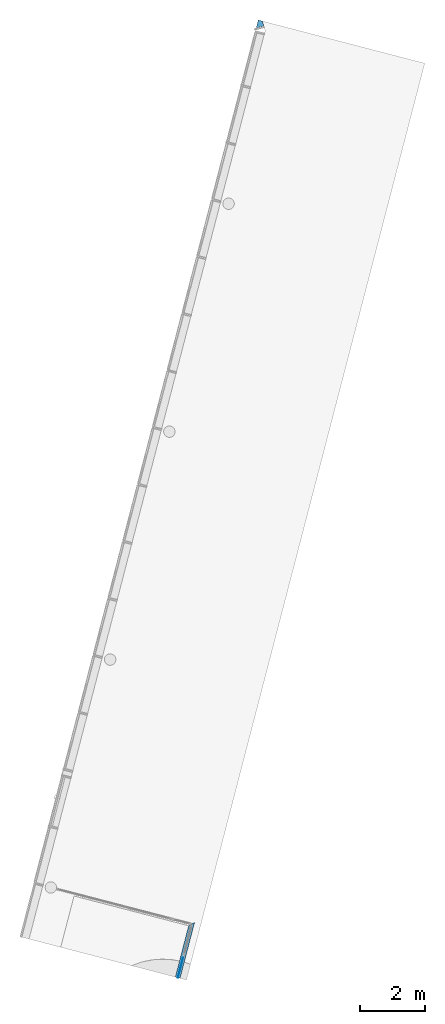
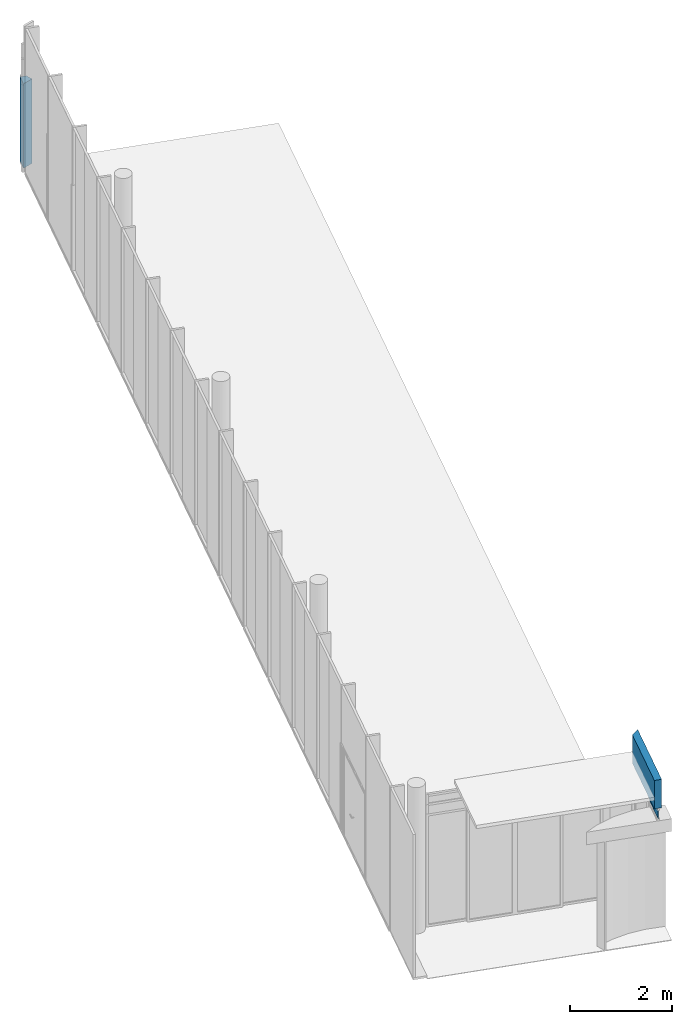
# One storey, part 7 of 9: 2 plates, 1 wall, 2 elements without a shape of their own.
"""IFC2X3 building model written with IfcOpenShell, lengths in millimetres."""

import ifcopenshell
import ifcopenshell.guid

model = None  # the IFC model being written
_history = None  # IfcOwnerHistory: only IFC2X3 demands one
_inside = {}  # id of a spatial element -> (the spatial element, [elements in it])
_under = {}  # id of a project, library or spatial element -> (it, [spatial elements below it])
_declared = {}  # id of a project -> (the project, [libraries it declares])
_typed = {}  # id of a type object -> (the type object, [elements of that type])
_made_of = {}  # id of a material, layer set ... -> (it, [elements and type objects made of it])


def new_model(schema):
    """Start an empty IFC model of exactly this schema.

    Asked for "IFC4X3", IfcOpenShell would pick the latest addendum, in which some entities
    have other attributes; the version numbers below select the first issue.
    IFC2X3 requires an IfcOwnerHistory on every rooted entity: one is made here for all.
    """
    global model, _history
    if schema == "IFC4X3":
        model = ifcopenshell.file(schema_version=(4, 3, 0, 0))
    else:
        model = ifcopenshell.file(schema=schema)
    _inside.clear()
    _under.clear()
    _declared.clear()
    _typed.clear()
    _made_of.clear()
    _history = None
    if model.schema == "IFC2X3":
        org = make("IfcOrganization", Name="unknown")
        user = make(
            "IfcPersonAndOrganization",
            ThePerson=make("IfcPerson", FamilyName="unknown"),
            TheOrganization=org,
        )
        app = make(
            "IfcApplication",
            ApplicationDeveloper=org,
            Version="unknown",
            ApplicationFullName="unknown",
            ApplicationIdentifier="unknown",
        )
        _history = make(
            "IfcOwnerHistory",
            OwningUser=user,
            OwningApplication=app,
            ChangeAction="ADDED",
            CreationDate=0,
        )
    return model


def make(cls, **values):
    """One entity of the class cls with the attributes given. An attribute that is None is left unset."""
    return model.create_entity(
        cls, **{name: value for name, value in values.items() if value is not None}
    )


def entity(cls, *values):
    """Any entity or typed value of the class cls, its attributes in the order of the schema. None: left unset."""
    e = model.create_entity(cls)
    for i, value in enumerate(values):
        if value is not None:
            e[i] = value
    return e


def rooted(cls, **values):
    """An entity with a GlobalId (a new one), such as an element, a storey or a relation."""
    return make(cls, GlobalId=ifcopenshell.guid.new(), OwnerHistory=_history, **values)


def si_unit(unit_type, name, prefix=None):
    """IfcSIUnit, for example si_unit("LENGTHUNIT", "METRE", prefix="MILLI")."""
    return make("IfcSIUnit", UnitType=unit_type, Prefix=prefix, Name=name)


def converted_unit(unit_type, name, factor, base, dimensions=None, offset=None):
    """IfcConversionBasedUnit, such as the inch: factor (a typed value) times the base unit."""
    return make(
        "IfcConversionBasedUnit"
        if offset is None
        else "IfcConversionBasedUnitWithOffset",
        ConversionOffset=offset,
        Dimensions=None
        if dimensions is None
        else entity("IfcDimensionalExponents", *dimensions),
        UnitType=unit_type,
        Name=name,
        ConversionFactor=make(
            "IfcMeasureWithUnit", ValueComponent=factor, UnitComponent=base
        ),
    )


def derived_unit(unit_type, elements):
    """IfcDerivedUnit: a product of units, each with its exponent."""
    return make(
        "IfcDerivedUnit",
        Elements=[
            make("IfcDerivedUnitElement", Unit=unit, Exponent=power)
            for unit, power in elements
        ],
        UnitType=unit_type,
    )


def assignment(units):
    """IfcUnitAssignment: the units of a project."""
    return None if units is None else make("IfcUnitAssignment", Units=units)


def point(xyz):
    """IfcCartesianPoint."""
    return None if xyz is None else make("IfcCartesianPoint", Coordinates=xyz)


def direction(xyz):
    """IfcDirection."""
    return None if xyz is None else make("IfcDirection", DirectionRatios=xyz)


def frame(location, z_axis=None, x_axis=None):
    """IfcAxis2Placement3D, a coordinate frame: its origin and axes. An axis left out is left unset."""
    return make(
        "IfcAxis2Placement3D",
        Location=point(location),
        Axis=direction(z_axis),
        RefDirection=direction(x_axis),
    )


def origin():
    """The frame at (0, 0, 0) with its axes left unset."""
    return frame((0.0, 0.0, 0.0))


def origin_with_axes():
    """The frame at (0, 0, 0) with the z axis (0, 0, 1) and the x axis (1, 0, 0) written out."""
    return frame((0.0, 0.0, 0.0), z_axis=(0.0, 0.0, 1.0), x_axis=(1.0, 0.0, 0.0))


def place(relative_to, where):
    """IfcLocalPlacement: puts the frame where relative to a parent placement (None: the world)."""
    return make(
        "IfcLocalPlacement", PlacementRelTo=relative_to, RelativePlacement=where
    )


def context(
    kind, dimensions, precision=None, world=None, true_north=None, identifier=None
):
    """IfcGeometricRepresentationContext, for example the 3D "Model" context."""
    return make(
        "IfcGeometricRepresentationContext",
        ContextIdentifier=identifier,
        ContextType=kind,
        CoordinateSpaceDimension=dimensions,
        Precision=precision,
        WorldCoordinateSystem=world,
        TrueNorth=true_north,
    )


def subcontext(parent, identifier, kind, view, scale=None):
    """IfcGeometricRepresentationSubContext, for example "Body" below "Model"."""
    return make(
        "IfcGeometricRepresentationSubContext",
        ContextIdentifier=identifier,
        ContextType=kind,
        ParentContext=parent,
        TargetScale=scale,
        TargetView=view,
    )


def project(units=None, contexts=None):
    """IfcProject with its units and contexts."""
    return rooted(
        "IfcProject",
        Name="project",
        RepresentationContexts=contexts,
        UnitsInContext=assignment(units),
    )


def spatial(cls, under=None, at=None, **own):
    """A site, building, storey or space (cls), placed at a placement, below another one or the project."""
    s = rooted(cls, ObjectPlacement=at, **own)
    if under is not None:
        _under.setdefault(under.id(), (under, []))[1].append(s)
    return s


def faces_of(points, faces, orient=None, outer=None):
    """IfcFace entities. A face is a list of loops; a loop is a list of indices into points, from 0.

    orient and outer hold one flag for each loop. By default every Orientation is true, the
    first loop of a face is its IfcFaceOuterBound and the others are IfcFaceBound.
    """
    made = []
    for i, loops in enumerate(faces):
        bounds = []
        for j, loop in enumerate(loops):
            is_outer = j == 0 if outer is None else outer[i][j]
            bounds.append(
                make(
                    "IfcFaceOuterBound" if is_outer else "IfcFaceBound",
                    Bound=make("IfcPolyLoop", Polygon=[points[k] for k in loop]),
                    Orientation=True if orient is None else orient[i][j],
                )
            )
        made.append(make("IfcFace", Bounds=bounds))
    return made


def faceted_brep(points, faces, orient=None, outer=None, voids=None):
    """IfcFacetedBrep: a solid bounded by flat faces; with voids (closed shells), ...WithVoids."""
    shared = [point(p) for p in points]
    hull = make("IfcClosedShell", CfsFaces=faces_of(shared, faces, orient, outer))
    if voids is None:
        return make("IfcFacetedBrep", Outer=hull)
    return make(
        "IfcFacetedBrepWithVoids",
        Outer=hull,
        Voids=[
            make(cls, CfsFaces=faces_of(shared, fs, o, b)) for cls, fs, o, b in voids
        ],
    )


def shape(context_of_items, identifier, shape_type, items):
    """IfcShapeRepresentation: the items that make up one representation, for example the "Body"."""
    return make(
        "IfcShapeRepresentation",
        ContextOfItems=context_of_items,
        RepresentationIdentifier=identifier,
        RepresentationType=shape_type,
        Items=items,
    )


def material(Name=None, Category=None):
    """IfcMaterial."""
    return make("IfcMaterial", Name=Name, Category=Category)


def layer(
    of_material, thickness, ventilated=None, Name=None, Category=None, Priority=None
):
    """IfcMaterialLayer: one layer of a wall or slab, of a material (None: an air gap)."""
    return make(
        "IfcMaterialLayer",
        Material=of_material,
        LayerThickness=thickness,
        IsVentilated=ventilated,
        Name=Name,
        Category=Category,
        Priority=Priority,
    )


def layer_set(layers, Name=None):
    """IfcMaterialLayerSet."""
    return make("IfcMaterialLayerSet", MaterialLayers=layers, LayerSetName=Name)


def made_of(thing, what):
    """Note that an element or type object is made of a material, layer set ...; save() writes the relation."""
    if what is not None:
        _made_of.setdefault(what.id(), (what, []))[1].append(thing)
    return thing


def type_object(cls, material=None, **own):
    """A type object (cls), such as IfcWallType, which elements share."""
    return made_of(rooted(cls, **own), material)


def element(
    cls,
    number,
    at=None,
    inside=None,
    cuts=None,
    type_object=None,
    material=None,
    context=None,
    identifier="Body",
    shape_type=None,
    held_by="IfcProductDefinitionShape",
    body=None,
    shapes=None,
    **own,
):
    """One element of the class cls, such as IfcWall. Its Tag is "e" and its number.

    at: its placement. inside: the storey or other place that contains it. cuts: it is an
    opening in that element (IfcRelVoidsElement). A single representation is given by context,
    identifier, shape_type and body (its items); several are given by shapes. held_by: the class
    of the entity that holds the representations. save() writes the other relations.
    """
    e = rooted(cls, Tag="e%d" % number, ObjectPlacement=at, **own)
    if body is not None:
        shapes = [shape(context, identifier, shape_type, body)]
    if shapes is not None:
        e.Representation = make(held_by, Representations=shapes)
    if inside is not None:
        _inside.setdefault(inside.id(), (inside, []))[1].append(e)
    if cuts is not None:
        rooted(
            "IfcRelVoidsElement", RelatingBuildingElement=cuts, RelatedOpeningElement=e
        )
    if type_object is not None:
        _typed.setdefault(type_object.id(), (type_object, []))[1].append(e)
    return made_of(e, material)


def aggregate(whole, parts):
    """IfcRelAggregates: a whole, such as a stair, and the parts it consists of."""
    return rooted("IfcRelAggregates", RelatingObject=whole, RelatedObjects=parts)


def save(model, path):
    """Write the relations noted so far, then the file.

    IfcRelAggregates (storeys below a building ...), IfcRelContainedInSpatialStructure (elements
    in a storey), IfcRelDefinesByType, IfcRelAssociatesMaterial and IfcRelDeclares: one each for
    every whole, place, type object, material and project.
    """
    for whole, parts in _under.values():
        aggregate(whole, parts)
    for where, things in _inside.values():
        rooted(
            "IfcRelContainedInSpatialStructure",
            RelatedElements=things,
            RelatingStructure=where,
        )
    for kind, things in _typed.values():
        rooted("IfcRelDefinesByType", RelatedObjects=things, RelatingType=kind)
    for what, things in _made_of.values():
        rooted("IfcRelAssociatesMaterial", RelatedObjects=things, RelatingMaterial=what)
    for by, libraries in _declared.values():
        rooted("IfcRelDeclares", RelatingContext=by, RelatedDefinitions=libraries)
    model.write(path)


model = new_model("IFC2X3")

# Units and contexts
model_context = context("Model", 3, precision=0.01, world=origin(), true_north=direction((6.12323399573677e-17, 1.0)))
plan_context = context("Plan", 3, precision=1e-05, world=origin_with_axes())
body_context = subcontext(model_context, "Body", "Model", "MODEL_VIEW")
ifc_project = project(units=[converted_unit("PLANEANGLEUNIT", "DEGREE", entity("IfcPositiveLengthMeasure", 0.0174532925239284), si_unit("PLANEANGLEUNIT", "RADIAN"), dimensions=[0, 0, 0, 0, 0, 0, 0]), si_unit("AREAUNIT", "SQUARE_METRE"), si_unit("LENGTHUNIT", "METRE", prefix="MILLI"), si_unit("MASSUNIT", "GRAM", prefix="KILO"), si_unit("POWERUNIT", "WATT"), si_unit("PRESSUREUNIT", "PASCAL", prefix="KILO"), si_unit("FORCEUNIT", "NEWTON", prefix="KILO"), si_unit("ELECTRICVOLTAGEUNIT", "VOLT"), si_unit("ELECTRICCURRENTUNIT", "AMPERE"), si_unit("THERMODYNAMICTEMPERATUREUNIT", "DEGREE_CELSIUS"), si_unit("TIMEUNIT", "SECOND"), si_unit("VOLUMEUNIT", "CUBIC_METRE"), derived_unit("LINEARVELOCITYUNIT", [(si_unit("LENGTHUNIT", "METRE"), 1), (si_unit("TIMEUNIT", "SECOND"), -1)]), derived_unit("VOLUMETRICFLOWRATEUNIT", [(si_unit("VOLUMEUNIT", "CUBIC_METRE"), 1), (si_unit("TIMEUNIT", "SECOND"), -1)]), derived_unit("THERMALTRANSMITTANCEUNIT", [(si_unit("POWERUNIT", "WATT"), 1), (si_unit("THERMODYNAMICTEMPERATUREUNIT", "KELVIN"), -1), (si_unit("AREAUNIT", "SQUARE_METRE"), -1)]), derived_unit("SOUNDPRESSUREUNIT", [(si_unit("PRESSUREUNIT", "PASCAL"), 1)])], contexts=[model_context, plan_context])

# Site, building, storey
site_placement = place(None, frame((0.0, -2.21771188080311e-09, 0.0), z_axis=(0.0, 0.0, 1.0), x_axis=(0.266093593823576, -0.963947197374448, 0.0)))
site = spatial("IfcSite", under=ifc_project, at=site_placement, Name="ENZV", CompositionType="ELEMENT")
building_placement = place(site_placement, origin_with_axes())
building = spatial("IfcBuilding", under=site, at=building_placement, Name="ZV001", CompositionType="ELEMENT")
storey_placement = place(building_placement, frame((0.0, 0.0, 5100.0), z_axis=(0.0, 0.0, 1.0), x_axis=(1.0, 0.0, 0.0)))
storey = spatial("IfcBuildingStorey", under=building, at=storey_placement, Name="H01", CompositionType="ELEMENT", Elevation=5100.0)

# Curtain wall, plate
curtain_wall_type_1 = type_object("IfcCurtainWallType", Name="Curtain Wall:Glassvegg 24 dB", PredefinedType="NOTDEFINED")
curtain_wall_1_placement = place(storey_placement, frame((0.0, 0.0, -5100.0), z_axis=(0.0, 0.0, 1.0), x_axis=(1.0, 0.0, 0.0)))
curtain_wall_1 = element("IfcCurtainWall", 1, at=curtain_wall_1_placement, inside=storey, type_object=curtain_wall_type_1, Name="Curtain Wall:Glassvegg 24 dB", ObjectType="Curtain Wall:Glassvegg 24 dB")
ifc_material_1 = material(Name="Glass")
plate_type_1 = type_object("IfcPlateType", Name="System Panel:Glassfelt 10mm", PredefinedType="CURTAIN_PANEL", material=ifc_material_1)
plate_1_placement = place(curtain_wall_1_placement, frame((-153830.698084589, 369289.979196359, 8048.0), z_axis=(0.0, 0.0, 1.0), x_axis=(0.866025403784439, -0.5, 0.0)))
plate_1 = element("IfcPlate", 2, at=plate_1_placement, type_object=plate_type_1, Name="System Panel:Glassfelt 10mm", ObjectType="System Panel:Glassfelt 10mm", context=body_context, shape_type="Brep", body=[
    faceted_brep([(-1904.7362617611, -5.0, 192.0), (-1904.7362617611, -5.0, 0.0), (-2534.90683031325, -5.0, 0.0), (-2534.90683031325, -5.0, 192.0), (-1904.73579595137, 5.0, 0.0), (-1904.73579595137, 5.0, 192.0), (-2534.90683031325, 5.0, 192.0), (-2534.90683031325, 5.0, 0.0)], [[[0, 1, 2, 3]], [[4, 5, 6, 7]], [[7, 6, 3, 2]], [[1, 4, 7, 2]], [[5, 0, 3, 6]], [[5, 4, 1, 0]]], orient=[[False], [False], [False], [False], [False], [False]]),
])
aggregate(curtain_wall_1, [plate_1])

curtain_wall_type_2 = type_object("IfcCurtainWallType", Name="Curtain Wall:Curtain Wall glass 125mm ut", PredefinedType="NOTDEFINED")
curtain_wall_2_placement = place(storey_placement, frame((0.0, 0.0, -5100.0), z_axis=(0.0, 0.0, 1.0), x_axis=(1.0, 0.0, 0.0)))
curtain_wall_2 = element("IfcCurtainWall", 3, at=curtain_wall_2_placement, inside=storey, type_object=curtain_wall_type_2, Name="Curtain Wall:Curtain Wall glass 125mm ut", ObjectType="Curtain Wall:Curtain Wall glass 125mm ut")
ifc_material_2 = material(Name="Alusystem isolert infill")
plate_type_2 = type_object("IfcPlateType", Name="System Panel:ENZV_Alu innfill 285mm_offset 57.5", PredefinedType="CURTAIN_PANEL", material=ifc_material_2)
plate_2_placement = place(curtain_wall_2_placement, frame((-182943.845474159, 380431.274492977, 5170.0), z_axis=(0.0, 0.0, 1.0), x_axis=(1.0, 0.0, 0.0)))
plate_2 = element("IfcPlate", 4, at=plate_2_placement, type_object=plate_type_2, Name="System Panel:ENZV_Alu innfill 285mm_offset 57.5", ObjectType="System Panel:ENZV_Alu innfill 285mm_offset 57.5", context=body_context, shape_type="Brep", body=[
    faceted_brep([(110.229742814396, -155.490517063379, 0.0), (110.229742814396, -155.490517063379, 2020.00000000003), (110.229742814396, 84.5, 2020.00000000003), (110.229742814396, 84.5, 0.0), (-47.134903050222, 84.5, 2020.00000000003), (-47.134903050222, 84.5, 0.0), (-110.229742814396, -24.771713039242, 0.0), (-110.229742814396, -24.771713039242, 2020.00000000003), (-110.229742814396, -28.1944810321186, 2020.00000000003), (-110.229742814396, -28.1944810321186, 0.0)], [[[0, 1, 2, 3]], [[4, 5, 3, 2]], [[6, 7, 8, 9]], [[9, 0, 3, 5, 6]], [[1, 8, 7, 4, 2]], [[7, 6, 5, 4]], [[9, 8, 1, 0]]], orient=[[False], [False], [False], [False], [False], [False], [False]]),
])
aggregate(curtain_wall_2, [plate_2])

# Wall
ifc_material_3 = material(Name="A246.Gips 12.5mm fiberarmert -QK5.31112")
ifc_layer_1 = layer(ifc_material_3, 13.0)
ifc_material_4 = material(Name="OSB plate")
ifc_layer_2 = layer(ifc_material_4, 12.0)
ifc_material_5 = material(Name="Stender/Isolasjon")
ifc_layer_3 = layer(ifc_material_5, 100.0)
ifc_layer_4 = layer(ifc_material_4, 12.0)
ifc_layer_5 = layer(ifc_material_3, 13.0)
ifc_layer_set = layer_set([ifc_layer_1, ifc_layer_2, ifc_layer_3, ifc_layer_4, ifc_layer_5], Name="Basic Wall:ENZV_S-UK10_T98_150mm_OSBG")
wall_type = type_object("IfcWallType", Name="Basic Wall:ENZV_S-UK10_T98_150mm_OSBG", PredefinedType="STANDARD", material=ifc_layer_set)
wall_placement = place(storey_placement, frame((-157016.626822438, 371121.602414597, 3200.0), z_axis=(0.0, 0.0, 1.0), x_axis=(0.866025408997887, -0.499999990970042, 0.0)))
element("IfcWall", 5, at=wall_placement, inside=storey, type_object=wall_type, Name="Basic Wall:ENZV_S-UK10_T98_150mm_OSBG", ObjectType="Basic Wall:ENZV_S-UK10_T98_150mm_OSBG", context=body_context, shape_type="Brep", body=[
    faceted_brep([(1770.16699394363, -75.0, 680.000000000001), (1770.16699394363, -75.0, 5.6843418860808e-14), (150.0, -75.0, 0.0), (150.0, -75.0, 680.000000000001), (1770.17398265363, 75.0, 1.4210854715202e-14), (1770.17398265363, 75.0, 680.000000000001), (0.0, 75.0, 680.000000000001), (0.0, 75.0, 0.0), (1770.16000523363, 75.0, 680.000000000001), (1770.16000523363, 75.0, 0.0), (1770.16000523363, -75.0, 0.0), (1770.16000523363, -75.0, 680.000000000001)], [[[0, 1, 2, 3]], [[4, 5, 6, 7]], [[7, 6, 3, 2]], [[1, 4, 7, 2]], [[5, 0, 3, 6]], [[8, 9, 10, 11]]], orient=[[False], [False], [False], [False], [False], [False]]),
])

save(model, "model.ifc")
